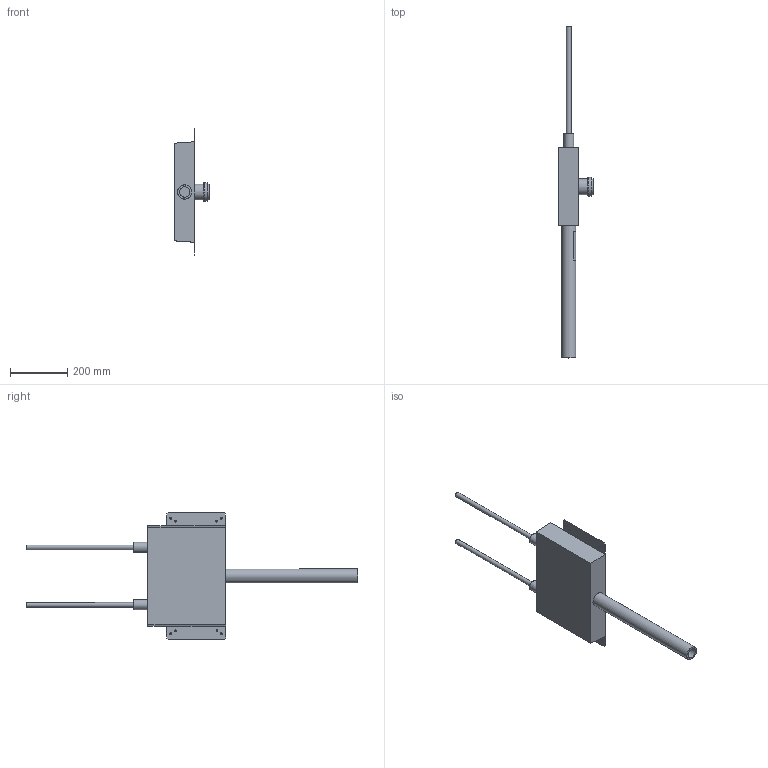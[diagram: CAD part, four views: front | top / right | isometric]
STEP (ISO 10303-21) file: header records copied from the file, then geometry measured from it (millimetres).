
FILE_DESCRIPTION(/* description */ (''),/* implementation_level */ '2;1');
FILE_NAME(/* name */ '\\LG50011\SANHA_Legnica\Engineering\Public\PROJEKTY\SANHA-BOX_Support_BiR\002-Rysunki_Boxów\325STTO16\Zespół-325STTO16.stp',/* time_stamp */ '2018-11-05T14:35:42+01:00',/* author */ ('gomulka'),/* organization */ (''),/* preprocessor_version */ 'ST-DEVELOPER v16.13',/* originating_system */ 'Autodesk Inventor 2018',/* authorisation */ '');
FILE_SCHEMA (('AUTOMOTIVE_DESIGN { 1 0 10303 214 3 1 1 }'));
Length unit declared in the file: millimetre
Products named in the file (7): Zespół-325STTO16; 325STTO16; Rura_50; Rura_16x2; Kolano_DN50-OD50; Plyta1; etykieta
Assembly tree (8 placements, depth 2):
  Zespół-325STTO16
    325STTO16
    Rura_50
    Rura_16x2  x2
    Plyta1  x2
    Kolano_DN50-OD50
    etykieta
Bounding box: 120.52 x 1155.68 x 442 mm (x, y, z)
Volume: 7022323.1 mm3; surface area: 593691.4 mm2
Topology: 8 solids, 8 shells, 154 faces, 352 edges, 234 vertices
Faces by surface type: plane 106, cylinder 30, bspline 16, cone 2
Full cylindrical faces by diameter (mm): 6.1 x4, 7 x4, 14 x2, 16 x4, 18.631 x2, 21 x2, 35 x2, 35.993 x1, 48.5 x1, 50 x1, 51 x1, 55 x3, 65 x1
Entity records: 4173 total; most frequent: CARTESIAN_POINT 863, ORIENTED_EDGE 584, DIRECTION 584, EDGE_CURVE 292, LINE 210, VECTOR 210, VERTEX_POINT 210, EDGE_LOOP 196
